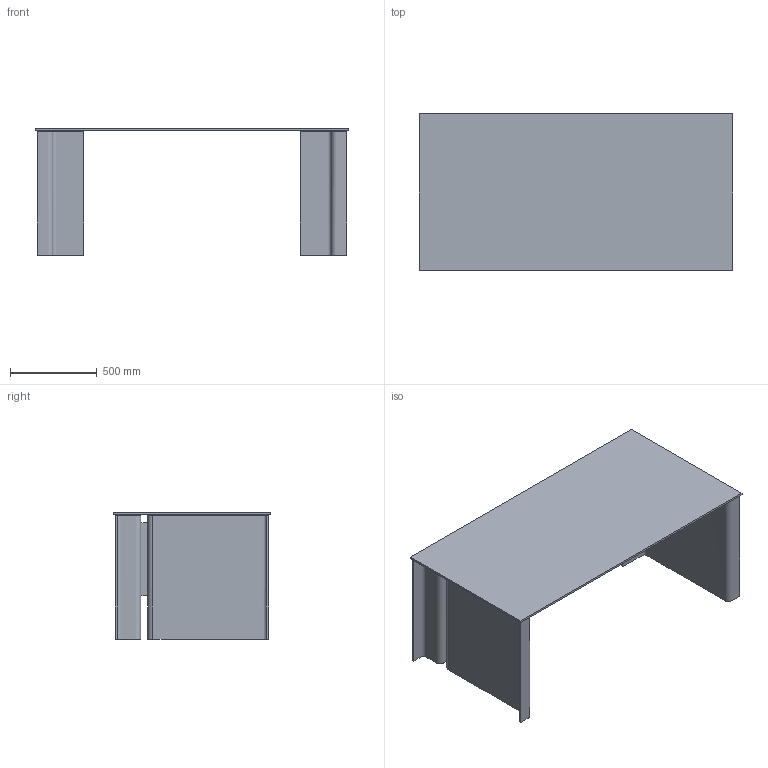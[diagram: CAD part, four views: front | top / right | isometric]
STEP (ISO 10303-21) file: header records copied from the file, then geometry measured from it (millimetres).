
FILE_DESCRIPTION(/* description */ (''),/* implementation_level */ '2;1');
FILE_NAME(/* name */ 'S1336 - Luminare Scrivania 180x90',/* time_stamp */ '2010-12-10T09:54:44+01:00',/* author */ (''),/* organization */ (''),/* preprocessor_version */ 'ST-DEVELOPER v10',/* originating_system */ '',/* authorisation */ '');
FILE_SCHEMA (('CONFIG_CONTROL_DESIGN'));
Length unit declared in the file: centimetre
Products named in the file (1): 1
Bounding box: 1800 x 900 x 726 mm (x, y, z)
Volume: 20121989.3 mm3; surface area: 7208330.6 mm2
Topology: 17 solids, 21 shells, 92 faces, 174 edges, 116 vertices
Faces by surface type: plane 54, bspline 38
Entity records: 2788 total; most frequent: CARTESIAN_POINT 1513, ORIENTED_EDGE 312, EDGE_CURVE 174, VERTEX_POINT 116, B_SPLINE_CURVE_WITH_KNOTS 98, ADVANCED_FACE 92, FACE_OUTER_BOUND 92, EDGE_LOOP 92
